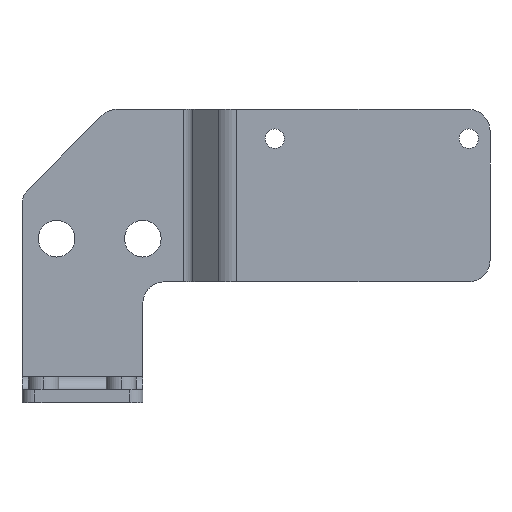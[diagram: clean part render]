
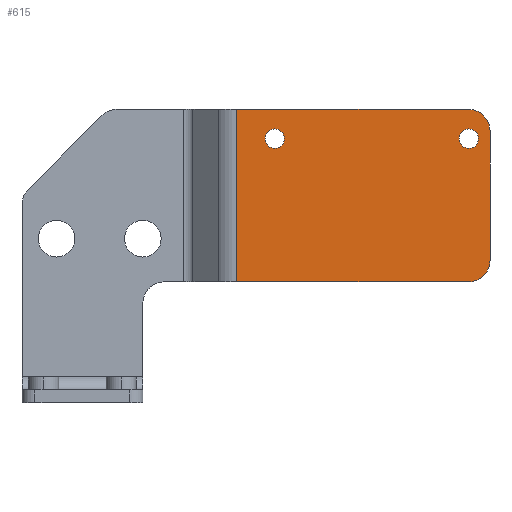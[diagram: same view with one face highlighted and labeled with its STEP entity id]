
A CAD part, left-side view. The second image highlights one B-rep face of the part: STEP entity #615.
In plain terms, the highlighted planar face has unit normal (-1, 0, 0).
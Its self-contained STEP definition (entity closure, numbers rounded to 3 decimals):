
#110 = DIRECTION ( 'NONE',  ( 0., 0., 1. ) ) ;
#112 = DIRECTION ( 'NONE',  ( -1., 0., 0. ) ) ;
#113 = CARTESIAN_POINT ( 'NONE',  ( 23.939, -32.22, 61.2 ) ) ;
#148 = DIRECTION ( 'NONE',  ( 0., 0., 1. ) ) ;
#149 = DIRECTION ( 'NONE',  ( -1., 0., 0. ) ) ;
#150 = CARTESIAN_POINT ( 'NONE',  ( 23.939, 12.78, 61.2 ) ) ;
#195 = DIRECTION ( 'NONE',  ( 0., 0., 1. ) ) ;
#196 = DIRECTION ( 'NONE',  ( -1., 0., 0. ) ) ;
#197 = CARTESIAN_POINT ( 'NONE',  ( 23.939, -32.122, 63. ) ) ;
#198 = DIRECTION ( 'NONE',  ( 0., 0., 1. ) ) ;
#199 = DIRECTION ( 'NONE',  ( -1., 0., 0. ) ) ;
#200 = CARTESIAN_POINT ( 'NONE',  ( 23.939, -32.122, 33. ) ) ;
#202 = DIRECTION ( 'NONE',  ( 0., 0., 1. ) ) ;
#203 = DIRECTION ( 'NONE',  ( -1., 0., 0. ) ) ;
#204 = CARTESIAN_POINT ( 'NONE',  ( 23.939, 12.78, 61.2 ) ) ;
#205 = DIRECTION ( 'NONE',  ( 0., 0., -1. ) ) ;
#206 = DIRECTION ( 'NONE',  ( 0., 0., 1. ) ) ;
#207 = DIRECTION ( 'NONE',  ( -1., 0., 0. ) ) ;
#208 = CARTESIAN_POINT ( 'NONE',  ( 23.939, -32.22, 61.2 ) ) ;
#213 = DIRECTION ( 'NONE',  ( 0., -1., 0. ) ) ;
#214 = CARTESIAN_POINT ( 'NONE',  ( 23.939, -37.122, 68. ) ) ;
#215 = DIRECTION ( 'NONE',  ( 0., 1., 0. ) ) ;
#216 = CARTESIAN_POINT ( 'NONE',  ( 23.939, -37.122, 28. ) ) ;
#221 = CARTESIAN_POINT ( 'NONE',  ( 23.939, 22.878, 28. ) ) ;
#227 = CARTESIAN_POINT ( 'NONE',  ( 23.939, 21.635, 28. ) ) ;
#231 = DIRECTION ( 'NONE',  ( 0., 0., -1. ) ) ;
#272 = EDGE_CURVE ( 'NONE', #1134, #1150, #1413, .T. ) ;
#289 = AXIS2_PLACEMENT_3D ( 'NONE', #1743, #1745, #1740 ) ;
#299 = EDGE_CURVE ( 'NONE', #1147, #1150, #1424, .T. ) ;
#302 = EDGE_CURVE ( 'NONE', #1134, #1132, #1430, .T. ) ;
#332 = EDGE_CURVE ( 'NONE', #1369, #1273, #1511, .T. ) ;
#333 = EDGE_CURVE ( 'NONE', #1283, #1370, #1426, .T. ) ;
#334 = EDGE_CURVE ( 'NONE', #1147, #1118, #1522, .T. ) ;
#335 = EDGE_CURVE ( 'NONE', #1116, #1118, #1519, .T. ) ;
#336 = EDGE_CURVE ( 'NONE', #1116, #1132, #1521, .T. ) ;
#353 = EDGE_CURVE ( 'NONE', #1370, #1283, #1467, .T. ) ;
#402 = EDGE_CURVE ( 'NONE', #1273, #1369, #1440, .T. ) ;
#426 = AXIS2_PLACEMENT_3D ( 'NONE', #113, #112, #110 ) ;
#433 = AXIS2_PLACEMENT_3D ( 'NONE', #150, #149, #148 ) ;
#444 = AXIS2_PLACEMENT_3D ( 'NONE', #197, #196, #195 ) ;
#445 = AXIS2_PLACEMENT_3D ( 'NONE', #200, #199, #198 ) ;
#446 = AXIS2_PLACEMENT_3D ( 'NONE', #204, #203, #202 ) ;
#447 = AXIS2_PLACEMENT_3D ( 'NONE', #208, #207, #206 ) ;
#615 = ADVANCED_FACE ( 'NONE', ( #1195, #1203, #934 ), #1742, .T. ) ;
#934 = FACE_OUTER_BOUND ( 'NONE', #1438, .T. ) ;
#946 = EDGE_LOOP ( 'NONE', ( #991, #993 ) ) ;
#991 = ORIENTED_EDGE ( 'NONE', *, *, #332, .F. ) ;
#993 = ORIENTED_EDGE ( 'NONE', *, *, #402, .F. ) ;
#995 = ORIENTED_EDGE ( 'NONE', *, *, #333, .F. ) ;
#997 = ORIENTED_EDGE ( 'NONE', *, *, #353, .F. ) ;
#999 = ORIENTED_EDGE ( 'NONE', *, *, #299, .F. ) ;
#1001 = ORIENTED_EDGE ( 'NONE', *, *, #334, .T. ) ;
#1003 = ORIENTED_EDGE ( 'NONE', *, *, #335, .F. ) ;
#1005 = ORIENTED_EDGE ( 'NONE', *, *, #336, .T. ) ;
#1007 = ORIENTED_EDGE ( 'NONE', *, *, #302, .F. ) ;
#1009 = ORIENTED_EDGE ( 'NONE', *, *, #272, .T. ) ;
#1116 = VERTEX_POINT ( 'NONE', #1679 ) ;
#1118 = VERTEX_POINT ( 'NONE', #1677 ) ;
#1132 = VERTEX_POINT ( 'NONE', #1670 ) ;
#1134 = VERTEX_POINT ( 'NONE', #1669 ) ;
#1147 = VERTEX_POINT ( 'NONE', #1660 ) ;
#1150 = VERTEX_POINT ( 'NONE', #1658 ) ;
#1195 = FACE_BOUND ( 'NONE', #946, .T. ) ;
#1203 = FACE_BOUND ( 'NONE', #1366, .T. ) ;
#1273 = VERTEX_POINT ( 'NONE', #1610 ) ;
#1283 = VERTEX_POINT ( 'NONE', #1608 ) ;
#1366 = EDGE_LOOP ( 'NONE', ( #995, #997 ) ) ;
#1369 = VERTEX_POINT ( 'NONE', #1566 ) ;
#1370 = VERTEX_POINT ( 'NONE', #1565 ) ;
#1413 = LINE ( 'NONE', #227, #1416 ) ;
#1416 = VECTOR ( 'NONE', #231, 1000. ) ;
#1424 = LINE ( 'NONE', #221, #1432 ) ;
#1426 = CIRCLE ( 'NONE', #446, 2.25 ) ;
#1430 = LINE ( 'NONE', #214, #1434 ) ;
#1432 = VECTOR ( 'NONE', #215, 1000. ) ;
#1434 = VECTOR ( 'NONE', #213, 1000. ) ;
#1438 = EDGE_LOOP ( 'NONE', ( #999, #1001, #1003, #1005, #1007, #1009 ) ) ;
#1440 = CIRCLE ( 'NONE', #426, 2.25 ) ;
#1467 = CIRCLE ( 'NONE', #433, 2.25 ) ;
#1510 = VECTOR ( 'NONE', #205, 1000. ) ;
#1511 = CIRCLE ( 'NONE', #447, 2.25 ) ;
#1519 = LINE ( 'NONE', #216, #1510 ) ;
#1521 = CIRCLE ( 'NONE', #444, 5. ) ;
#1522 = CIRCLE ( 'NONE', #445, 5. ) ;
#1565 = CARTESIAN_POINT ( 'NONE',  ( 23.939, 12.78, 58.95 ) ) ;
#1566 = CARTESIAN_POINT ( 'NONE',  ( 23.939, -32.22, 63.45 ) ) ;
#1608 = CARTESIAN_POINT ( 'NONE',  ( 23.939, 12.78, 63.45 ) ) ;
#1610 = CARTESIAN_POINT ( 'NONE',  ( 23.939, -32.22, 58.95 ) ) ;
#1658 = CARTESIAN_POINT ( 'NONE',  ( 23.939, 21.635, 28. ) ) ;
#1660 = CARTESIAN_POINT ( 'NONE',  ( 23.939, -32.122, 28. ) ) ;
#1669 = CARTESIAN_POINT ( 'NONE',  ( 23.939, 21.635, 68. ) ) ;
#1670 = CARTESIAN_POINT ( 'NONE',  ( 23.939, -32.122, 68. ) ) ;
#1677 = CARTESIAN_POINT ( 'NONE',  ( 23.939, -37.122, 33. ) ) ;
#1679 = CARTESIAN_POINT ( 'NONE',  ( 23.939, -37.122, 63. ) ) ;
#1740 = DIRECTION ( 'NONE',  ( 0., 0., 1. ) ) ;
#1742 = PLANE ( 'NONE',  #289 ) ;
#1743 = CARTESIAN_POINT ( 'NONE',  ( 23.939, 22.878, 28. ) ) ;
#1745 = DIRECTION ( 'NONE',  ( -1., 0., 0. ) ) ;
